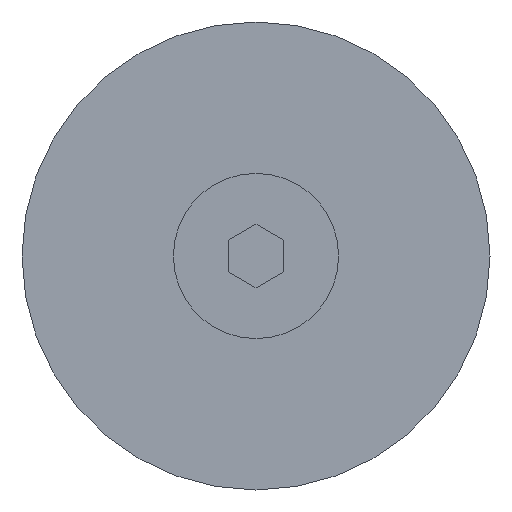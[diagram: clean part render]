
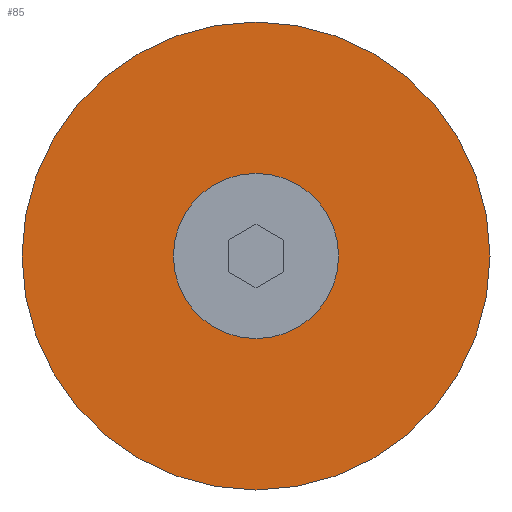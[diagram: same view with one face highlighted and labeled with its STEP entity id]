
A CAD part, front view. The second image highlights one B-rep face of the part: STEP entity #85.
In plain terms, the highlighted planar face has unit normal (0, -1, 0).
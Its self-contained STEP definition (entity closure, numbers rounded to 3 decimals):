
#85=ADVANCED_FACE('',(#127,#128),#129,.F.);
#127=FACE_OUTER_BOUND('',#191,.T.);
#128=FACE_BOUND('',#192,.T.);
#129=PLANE('',#193);
#191=EDGE_LOOP('',(#310,#311));
#192=EDGE_LOOP('',(#312,#313));
#193=AXIS2_PLACEMENT_3D('',#314,#315,#316);
#310=ORIENTED_EDGE('',*,*,#480,.T.);
#311=ORIENTED_EDGE('',*,*,#481,.T.);
#312=ORIENTED_EDGE('',*,*,#479,.F.);
#313=ORIENTED_EDGE('',*,*,#477,.F.);
#314=CARTESIAN_POINT('',(-17.,-9.0,0.0));
#315=DIRECTION('',(-0.0,1.0,0.0));
#316=DIRECTION('',(1.0,0.0,0.0));
#477=EDGE_CURVE('',#556,#558,#559,.T.);
#479=EDGE_CURVE('',#558,#556,#561,.T.);
#480=EDGE_CURVE('',#562,#563,#564,.T.);
#481=EDGE_CURVE('',#563,#562,#565,.T.);
#556=VERTEX_POINT('',#682);
#558=VERTEX_POINT('',#685);
#559=CIRCLE('',#686,6.0);
#561=CIRCLE('',#689,6.0);
#562=VERTEX_POINT('',#690);
#563=VERTEX_POINT('',#691);
#564=CIRCLE('',#692,17.0);
#565=CIRCLE('',#693,17.0);
#682=CARTESIAN_POINT('',(0.,-9.0,6.0));
#685=CARTESIAN_POINT('',(0.,-9.0,-6.0));
#686=AXIS2_PLACEMENT_3D('',#811,#812,#813);
#689=AXIS2_PLACEMENT_3D('',#815,#816,#817);
#690=CARTESIAN_POINT('',(0.,-9.0,-17.0));
#691=CARTESIAN_POINT('',(0.,-9.0,17.0));
#692=AXIS2_PLACEMENT_3D('',#818,#819,#820);
#693=AXIS2_PLACEMENT_3D('',#821,#822,#823);
#811=CARTESIAN_POINT('',(0.,-9.0,0.0));
#812=DIRECTION('',(0.0,-1.0,0.0));
#813=DIRECTION('',(0.0,0.0,-1.0));
#815=CARTESIAN_POINT('',(0.,-9.0,0.0));
#816=DIRECTION('',(0.0,-1.0,0.0));
#817=DIRECTION('',(0.0,0.0,-1.0));
#818=CARTESIAN_POINT('',(0.,-9.0,0.0));
#819=DIRECTION('',(0.0,-1.0,0.0));
#820=DIRECTION('',(0.0,0.0,-1.0));
#821=CARTESIAN_POINT('',(0.,-9.0,0.0));
#822=DIRECTION('',(0.0,-1.0,0.0));
#823=DIRECTION('',(0.0,0.0,-1.0));
